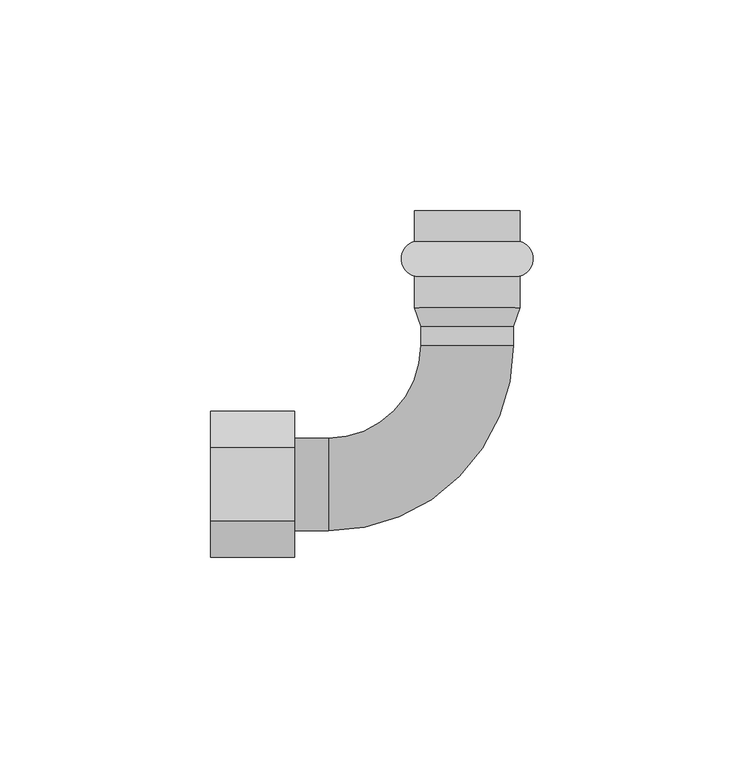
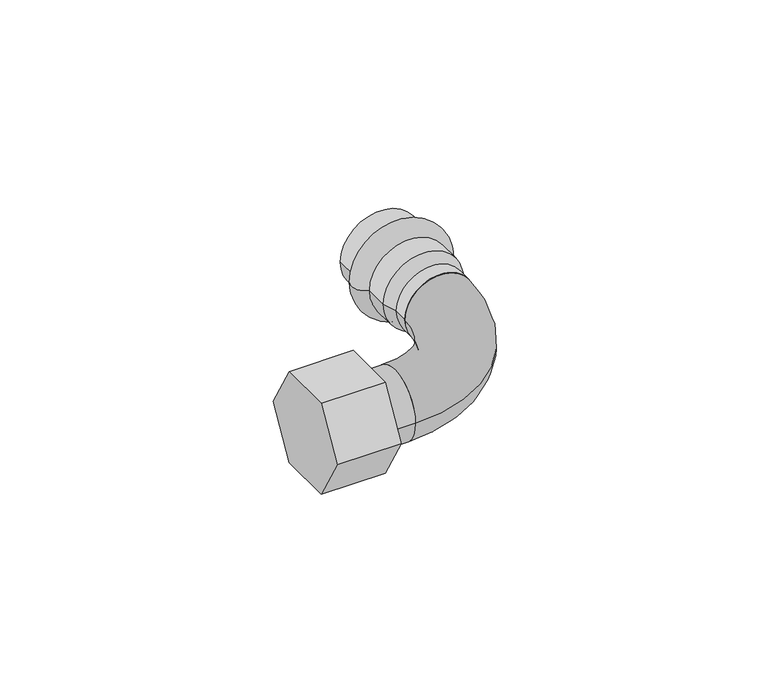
"""IFC4 building model written with IfcOpenShell, lengths in millimetres: valve geometry, Отвод_90°_с_переходом_на_внутреннюю_или_наружнюю_резьбу : VTi.956.I."""

from ifc_helpers import new_model, si_unit, point, frame, origin, place, context, project, spatial, polyline, circle_curve, ellipse_curve, trimmed, outline, extrude, source, transform, mapped, element, save
from ifc_brep_helpers import plane_surface, cylinder_surface, revolved_surface, advanced_brep


def valve_2d35003a(model_context):
    return source(origin(), model_context, "Body", "SolidModel", [
        extrude(outline(polyline([(-8.660254, 15.0), (8.660254, 15.0), (17.3205081, 0.0), (8.660254, -15.0), (-8.660254, -15.0), (-17.3205081, 0.0), (-8.660254, 15.0)])), frame((-61.0, 0.0, 0.0), z_axis=(1.0, 0.0, 0.0), x_axis=(0.0, 1.0, 0.0)), (0.0, 0.0, 1.0), 20.0),
        advanced_brep(
        [(12.55, 57.73, 0.0), (-12.55, 57.73, 0.0), (-12.55, 65.0, 0.0), (12.55, 65.0, 0.0), (12.55, 49.47, 0.0), (-12.55, 49.47, 0.0), (12.55, 42.0, 0.0), (-12.55, 42.0, 0.0), (11.0, 37.6, 0.0), (-11.0, 37.6, 0.0), (11.0, 33.0, 0.0), (-11.0, 33.0, 0.0), (0.0, 33.0, 0.0), (0.0, 65.0, 0.0)],
        [
            (0, 1, circle_curve(frame((0.0, 57.73, 0.0), z_axis=(0.0, 1.0, 0.0), x_axis=(-1.0, 0.0, 0.0)), 12.55)),
            (1, 2),
            (2, 3, circle_curve(frame((0.0, 65.0, 0.0), z_axis=(0.0, -1.0, 0.0), x_axis=(-1.0, 0.0, 0.0)), 12.55)),
            (3, 0),
            (1, 0, circle_curve(frame((0.0, 57.73, 0.0), z_axis=(0.0, 1.0, 0.0), x_axis=(-1.0, 0.0, 0.0)), 12.55)),
            (3, 2, circle_curve(frame((0.0, 65.0, 0.0), z_axis=(0.0, -1.0, 0.0), x_axis=(-1.0, 0.0, 0.0)), 12.55)),
            (4, 5, circle_curve(frame((0.0, 49.47, 0.0), z_axis=(0.0, 1.0, 0.0), x_axis=(-1.0, 0.0, 0.0)), 12.55)),
            (5, 1, circle_curve(frame((-11.3504491, 53.6, 0.0), z_axis=(0.0, 0.0, -1.0), x_axis=(0.0, 1.0, 0.0)), 4.300677)),
            (0, 4, circle_curve(frame((11.3504491, 53.6, 0.0), z_axis=(0.0, 0.0, -1.0), x_axis=(0.0, 1.0, 0.0)), 4.300677)),
            (5, 4, circle_curve(frame((0.0, 49.47, 0.0), z_axis=(0.0, 1.0, 0.0), x_axis=(-1.0, 0.0, 0.0)), 12.55)),
            (6, 7, circle_curve(frame((0.0, 42.0, 0.0), z_axis=(0.0, 1.0, 0.0), x_axis=(-1.0, 0.0, 0.0)), 12.55)),
            (7, 5),
            (4, 6),
            (7, 6, circle_curve(frame((0.0, 42.0, 0.0), z_axis=(0.0, 1.0, 0.0), x_axis=(-1.0, 0.0, 0.0)), 12.55)),
            (8, 9, circle_curve(frame((0.0, 37.6, 0.0), z_axis=(0.0, 1.0, 0.0), x_axis=(-1.0, 0.0, 0.0)), 11.0)),
            (9, 7),
            (6, 8),
            (9, 8, circle_curve(frame((0.0, 37.6, 0.0), z_axis=(0.0, 1.0, 0.0), x_axis=(-1.0, 0.0, 0.0)), 11.0)),
            (10, 11, circle_curve(frame((0.0, 33.0, 0.0), z_axis=(0.0, 1.0, 0.0), x_axis=(-1.0, 0.0, 0.0)), 11.0)),
            (11, 9),
            (8, 10),
            (11, 10, circle_curve(frame((0.0, 33.0, 0.0), z_axis=(0.0, 1.0, 0.0), x_axis=(-1.0, 0.0, 0.0)), 11.0)),
            (12, 11),
            (10, 12),
            (2, 13),
            (13, 3),
        ],
        [
            cylinder_surface(frame((0.0, 2065.0, 0.0), z_axis=(0.0, -1.0, 0.0), x_axis=(-1.0, 0.0, 0.0)), 12.55),
            revolved_surface(trimmed(ellipse_curve(frame((-11.3504491, 53.6, 0.0), z_axis=(0.0, 0.0, 1.0), x_axis=(0.0, 1.0, 0.0)), 4.300677, 4.300677), [point((-12.55, 57.73, 0.0))], [point((-12.55, 49.47, 0.0))], True, "CARTESIAN"), (0.0, 2065.0, 0.0), (0.0, -1.0, 0.0)),
            revolved_surface(polyline([(-12.55, 42.0, 0.0), (-11.0, 37.6, 0.0)]), (0.0, 2065.0, 0.0), (0.0, -1.0, 0.0)),
            cylinder_surface(frame((0.0, 2065.0, 0.0), z_axis=(0.0, -1.0, 0.0), x_axis=(-1.0, 0.0, 0.0)), 11.0),
            plane_surface(frame((0.0, 33.0, 0.0), z_axis=(0.0, -1.0, 0.0), x_axis=(-1.0, 0.0, 0.0))),
            plane_surface(frame((0.0, 65.0, 0.0), z_axis=(0.0, 1.0, 0.0), x_axis=(-1.0, 0.0, 0.0))),
        ],
        [
            (0, [[1, 2, 3, 4]]),
            (0, [[5, -4, 6, -2]]),
            (1, [[7, 8, -1, 9]]),
            (1, [[10, -9, -5, -8]]),
            (0, [[11, 12, -7, 13]]),
            (0, [[14, -13, -10, -12]]),
            (2, [[15, 16, -11, 17]]),
            (2, [[18, -17, -14, -16]]),
            (3, [[19, 20, -15, 21]]),
            (3, [[22, -21, -18, -20]]),
            (4, [[23, -19, 24]]),
            (4, [[-24, -22, -23]]),
            (5, [[-3, 25, 26]]),
            (5, [[-6, -26, -25]]),
        ],
    ),
        advanced_brep(
        [(-33.0, -11.0, 0.0), (-33.0, 11.0, 0.0), (-33.0, 0.0, 0.0), (-41.0, -11.0, 0.0), (-41.0, 11.0, 0.0), (-41.0, 0.0, 0.0)],
        [
            (0, 1, circle_curve(frame((-33.0, 0.0, 0.0), z_axis=(1.0, 0.0, 0.0), x_axis=(0.0, 1.0, 0.0)), 11.0)),
            (1, 2),
            (2, 0),
            (1, 0, circle_curve(frame((-33.0, 0.0, 0.0), z_axis=(1.0, 0.0, 0.0), x_axis=(0.0, 1.0, 0.0)), 11.0)),
            (3, 4, circle_curve(frame((-41.0, 0.0, 0.0), z_axis=(1.0, 0.0, 0.0), x_axis=(0.0, 1.0, 0.0)), 11.0)),
            (4, 1),
            (0, 3),
            (4, 3, circle_curve(frame((-41.0, 0.0, 0.0), z_axis=(1.0, 0.0, 0.0), x_axis=(0.0, 1.0, 0.0)), 11.0)),
            (5, 4),
            (3, 5),
        ],
        [
            plane_surface(frame((-33.0, 0.0, 0.0), z_axis=(1.0, 0.0, 0.0), x_axis=(0.0, 1.0, 0.0))),
            cylinder_surface(frame((2000.0, 0.0, 0.0), z_axis=(-1.0, 0.0, 0.0), x_axis=(0.0, 1.0, 0.0)), 11.0),
            plane_surface(frame((-41.0, 0.0, 0.0), z_axis=(-1.0, 0.0, 0.0), x_axis=(0.0, 1.0, 0.0))),
        ],
        [
            (0, [[1, 2, 3]]),
            (0, [[4, -3, -2]]),
            (1, [[5, 6, -1, 7]]),
            (1, [[8, -7, -4, -6]]),
            (2, [[9, -5, 10]]),
            (2, [[-10, -8, -9]]),
        ],
    ),
        advanced_brep(
        [(-11.0, 33.0, 0.0), (11.0, 33.0, 0.0), (-33.0, 11.0, 0.0), (-33.0, -11.0, 0.0)],
        [
            (0, 1, circle_curve(frame((0.0, 33.0, 0.0), z_axis=(0.0, 1.0, 0.0), x_axis=(1.0, 0.0, 0.0)), 11.0)),
            (1, 0, circle_curve(frame((0.0, 33.0, 0.0), z_axis=(0.0, 1.0, 0.0), x_axis=(1.0, 0.0, 0.0)), 11.0)),
            (2, 3, circle_curve(frame((-33.0, 0.0, 0.0), z_axis=(-1.0, 0.0, 0.0), x_axis=(0.0, -1.0, 0.0)), 11.0)),
            (3, 2, circle_curve(frame((-33.0, 0.0, 0.0), z_axis=(-1.0, 0.0, 0.0), x_axis=(0.0, -1.0, 0.0)), 11.0)),
            (3, 1, circle_curve(frame((-33.0, 33.0, 0.0), z_axis=(0.0, 0.0, 1.0), x_axis=(1.0, 0.0, 0.0)), 44.0)),
            (0, 2, circle_curve(frame((-33.0, 33.0, 0.0), z_axis=(0.0, 0.0, -1.0), x_axis=(1.0, 0.0, 0.0)), 22.0)),
        ],
        [
            plane_surface(frame((0.0, 33.0, 0.0), z_axis=(0.0, 1.0, 0.0), x_axis=(0.0, 0.0, 1.0))),
            plane_surface(frame((-33.0, 0.0, 0.0), z_axis=(-1.0, 0.0, 0.0), x_axis=(0.0, 0.0, 1.0))),
            revolved_surface(trimmed(ellipse_curve(frame((0.0, 33.0, 0.0), z_axis=(0.0, 1.0, 0.0), x_axis=(1.0, 0.0, 0.0)), 11.0, 11.0), [point((-11.0, 33.0, 0.0))], [point((11.0, 33.0, 0.0))], True, "CARTESIAN"), (-33.0, 33.0, 0.0), (0.0, 0.0, -1.0)),
            revolved_surface(trimmed(ellipse_curve(frame((0.0, 33.0, 0.0), z_axis=(0.0, 1.0, 0.0), x_axis=(1.0, 0.0, 0.0)), 11.0, 11.0), [point((11.0, 33.0, 0.0))], [point((-11.0, 33.0, 0.0))], True, "CARTESIAN"), (-33.0, 33.0, 0.0), (0.0, 0.0, -1.0)),
        ],
        [
            (0, [[1, 2]]),
            (1, [[3, 4]]),
            (2, [[5, -1, 6, -4]]),
            (3, [[-6, -2, -5, -3]]),
        ],
    ),
    ])


if __name__ == "__main__":
    model = new_model("IFC4")
    model_context = context("Model", 3, world=origin())
    ifc_project = project(units=[si_unit("LENGTHUNIT", "METRE", prefix="MILLI")], contexts=[model_context])
    site = spatial("IfcSite", under=ifc_project)
    building = spatial("IfcBuilding", under=site)
    placement = place(None, origin())
    valve_shape = valve_2d35003a(model_context)
    element("IfcValve", 1, ObjectType="Отвод_90°_с_переходом_на_внутреннюю_или_наружнюю_резьбу : VTi.956.I", at=placement, inside=building, context=model_context, shape_type="MappedRepresentation", body=[
        mapped(valve_shape, transform((0.0, 0.0, 0.0), x_axis=(1.0, 0.0, 0.0), y_axis=(0.0, 1.0, 0.0), z_axis=(0.0, 0.0, 1.0))),
    ])
    save(model, "model.ifc")
